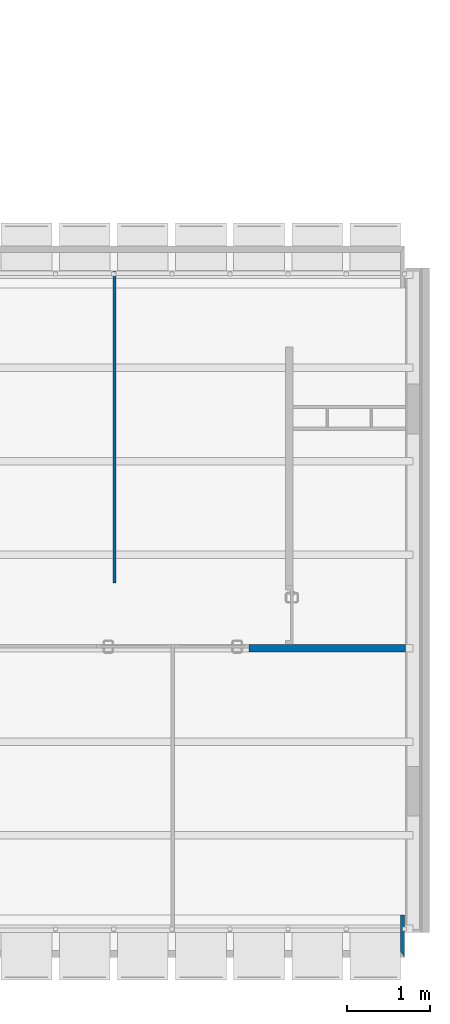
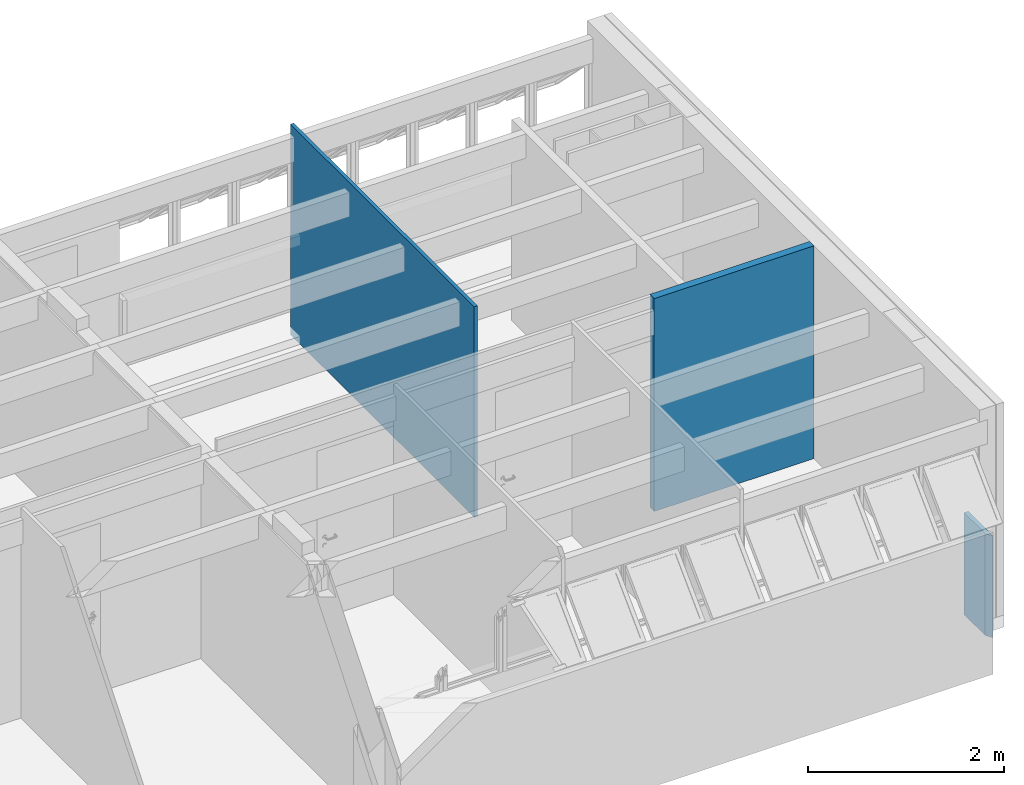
# One storey, part 24 of 40: 3 walls.
"""IFC4 building model written with IfcOpenShell, lengths in millimetres."""

from ifc_helpers import new_model, entity, si_unit, converted_unit, derived_unit, direction, frame, origin_with_axes, place, context, subcontext, project, spatial, line, indexed_curve, outline, extrude, material, layer, layer_set, layer_usage, type_object, element, save


model = new_model("IFC4")

# Units and contexts
model_context = context("Model", 3, precision=0.01, world=origin_with_axes(), true_north=direction((0.0, 1.0)))
body_context = subcontext(model_context, "Body", "Model", "MODEL_VIEW")
ifc_project = project(units=[si_unit("LENGTHUNIT", "METRE", prefix="MILLI"), si_unit("AREAUNIT", "SQUARE_METRE"), si_unit("VOLUMEUNIT", "CUBIC_METRE"), converted_unit("PLANEANGLEUNIT", "DEGREE", entity("IfcPlaneAngleMeasure", 0.0174532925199), si_unit("PLANEANGLEUNIT", "RADIAN"), dimensions=[0, 0, 0, 0, 0, 0, 0]), converted_unit("TIMEUNIT", "Year", entity("IfcTimeMeasure", 31556926.0), si_unit("TIMEUNIT", "SECOND"), dimensions=[0, 0, 1, 0, 0, 0, 0]), si_unit("MASSUNIT", "GRAM", prefix="KILO"), si_unit("THERMODYNAMICTEMPERATUREUNIT", "DEGREE_CELSIUS"), si_unit("LUMINOUSINTENSITYUNIT", "LUMEN"), si_unit("ENERGYUNIT", "JOULE", prefix="MEGA"), derived_unit("THERMALCONDUCTANCEUNIT", [(si_unit("POWERUNIT", "WATT"), 1), (si_unit("LENGTHUNIT", "METRE"), -1), (si_unit("THERMODYNAMICTEMPERATUREUNIT", "KELVIN"), -1)]), derived_unit("SPECIFICHEATCAPACITYUNIT", [(si_unit("ENERGYUNIT", "JOULE"), 1), (si_unit("MASSUNIT", "GRAM", prefix="KILO"), -1), (si_unit("THERMODYNAMICTEMPERATUREUNIT", "KELVIN"), -1)]), derived_unit("MASSDENSITYUNIT", [(si_unit("MASSUNIT", "GRAM", prefix="KILO"), 1), (si_unit("VOLUMEUNIT", "CUBIC_METRE"), -1)])], contexts=[model_context])

# Site, building, storey
site_placement = place(None, origin_with_axes())
site = spatial("IfcSite", under=ifc_project, at=site_placement, Name="Local", CompositionType="ELEMENT")
building_placement = place(site_placement, origin_with_axes())
building = spatial("IfcBuilding", under=site, at=building_placement, Name="Construção", CompositionType="ELEMENT")
storey_placement = place(building_placement, origin_with_axes())
storey = spatial("IfcBuildingStorey", under=building, at=storey_placement, Name="Primeiro Pavimento", CompositionType="ELEMENT", Elevation=0.0)

# Walls
ifc_material_1 = material(Name="GENÉRICO - VEDAÇÃO EXTERNA")
ifc_layer_1 = layer(ifc_material_1, 40.0, ventilated="UNKNOWN", Name="GENÉRICO - VEDAÇÃO EXTERNA")
ifc_layer_set_1 = layer_set([ifc_layer_1], Name="GENÉRICO - VEDAÇÃO EXTERNA 40")
ifc_layer_usage_1 = layer_usage(ifc_layer_set_1, "AXIS2", "POSITIVE", -40.0)
wall_type_1 = type_object("IfcWallType", Name="GENÉRICO - VEDAÇÃO EXTERNA 40", PredefinedType="NOTDEFINED")
wall_1_placement = place(storey_placement, frame((10960.0, 4505.0, 0.0), z_axis=(0.0, 0.0, 1.0), x_axis=(0.0, 1.0, 0.0)))
element("IfcWall", 1, at=wall_1_placement, inside=storey, type_object=wall_type_1, material=ifc_layer_usage_1, Name="APTO2-PAREDE-003", PredefinedType="NOTDEFINED", context=body_context, shape_type="SweptSolid", body=[
    extrude(outline(indexed_curve([(0.0, -40.0), (3750.0, -40.0), (3750.0, 0.0), (0.0, 0.0)], segments=[line(1, 2, 3, 4, 1)])), origin_with_axes(), (0.0, 0.0, 1.0), 2620.0),
])
ifc_layer_2 = layer(ifc_material_1, 90.0, ventilated="UNKNOWN", Name="GENÉRICO - VEDAÇÃO EXTERNA")
ifc_layer_set_2 = layer_set([ifc_layer_2], Name="GENÉRICO - VEDAÇÃO EXTERNA 90")
ifc_layer_usage_2 = layer_usage(ifc_layer_set_2, "AXIS2", "POSITIVE", 0.0)
wall_type_2 = type_object("IfcWallType", Name="GENÉRICO - VEDAÇÃO EXTERNA 90", PredefinedType="NOTDEFINED")
wall_2_placement = place(storey_placement, frame((14480.0, 3765.2195667, 0.0), z_axis=(0.0, 0.0, 1.0), x_axis=(-1.0, 0.0, 0.0)))
element("IfcWall", 2, at=wall_2_placement, inside=storey, type_object=wall_type_2, material=ifc_layer_usage_2, Name="APTO2-PAREDE-019", PredefinedType="NOTDEFINED", context=body_context, shape_type="SweptSolid", body=[
    extrude(outline(indexed_curve([(0.0, 0.0), (1880.0, 0.0), (1879.99807021, 90.0), (0.0, 90.0)], segments=[line(1, 2, 3, 4, 1)])), origin_with_axes(), (0.0, 0.0, 1.0), 2650.0),
])
ifc_material_2 = material(Name="Concreto Armado Moldado in Loco - Estrutural")
ifc_layer_3 = layer(ifc_material_2, 50.0, ventilated="UNKNOWN", Name="Concreto Armado Moldado in Loco - Estrutural")
ifc_layer_set_3 = layer_set([ifc_layer_3], Name="Concreto Armado Moldado in Loco - Estrutural 50")
ifc_layer_usage_3 = layer_usage(ifc_layer_set_3, "AXIS2", "POSITIVE", -50.0)
wall_type_3 = type_object("IfcWallType", Name="Concreto Armado Moldado in Loco - Estrutural 50", PredefinedType="NOTDEFINED")
wall_3_placement = place(storey_placement, frame((14470.0, 510.0, 0.0), z_axis=(0.0, 0.0, 1.0), x_axis=(0.0, -1.0, 0.0)))
element("IfcWall", 3, at=wall_3_placement, inside=storey, type_object=wall_type_3, material=ifc_layer_usage_3, Name="APTO2-PAREDE-002", PredefinedType="NOTDEFINED", context=body_context, shape_type="SweptSolid", body=[
    extrude(outline(indexed_curve([(0.0, -50.0), (430.0, -50.0), (510.0, 0.0), (0.0, 0.0)], segments=[line(1, 2, 3, 4, 1)])), origin_with_axes(), (0.0, 0.0, 1.0), 1270.0),
])

save(model, "model.ifc")
